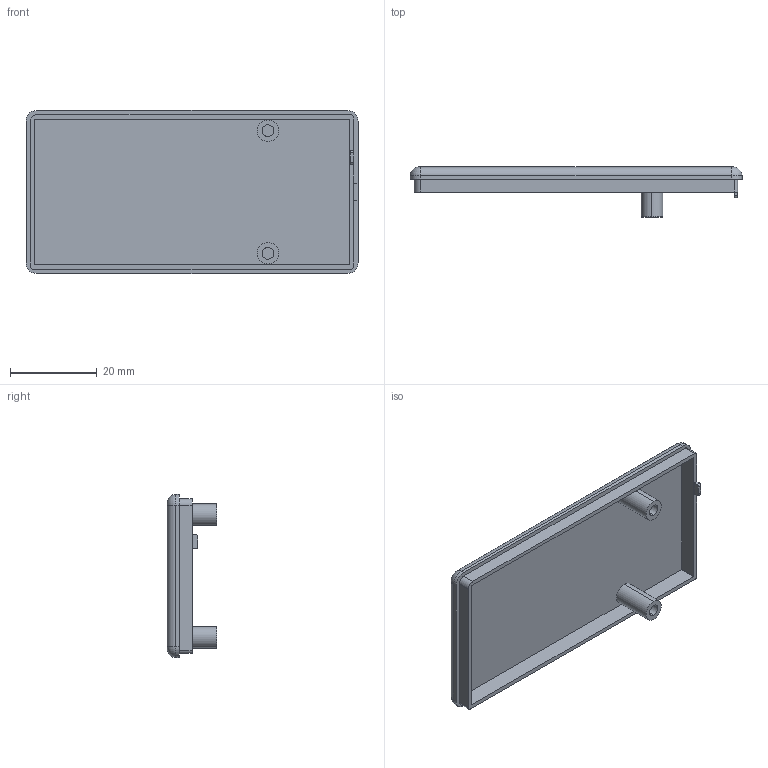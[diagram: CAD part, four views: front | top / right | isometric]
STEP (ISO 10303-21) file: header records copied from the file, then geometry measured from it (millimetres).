
FILE_DESCRIPTION (( 'STEP AP214' ), '1' );
FILE_NAME ('Tapa PP12.STEP', '2016-10-06T18:51:06', ( 'aaa' ), ( '' ), 'SwSTEP 2.0', 'SolidWorks 2013', '' );
FILE_SCHEMA (( 'AUTOMOTIVE_DESIGN' ));
Length unit declared in the file: millimetre
Products named in the file (1): Tapa PP12
Bounding box: 76.7 x 11.5 x 37.7 mm (x, y, z)
Volume: 6358.7 mm3; surface area: 8195.5 mm2
Topology: 1 solids, 1 shells, 59 faces, 148 edges, 96 vertices
Faces by surface type: plane 29, cylinder 26, torus 4
Entity records: 1808 total; most frequent: DIRECTION 324, CARTESIAN_POINT 304, ORIENTED_EDGE 296, EDGE_CURVE 148, AXIS2_PLACEMENT_3D 116, VERTEX_POINT 96, VECTOR 92, LINE 92
